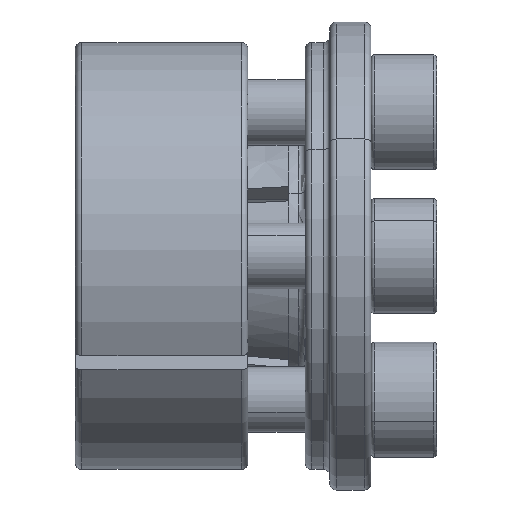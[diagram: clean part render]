
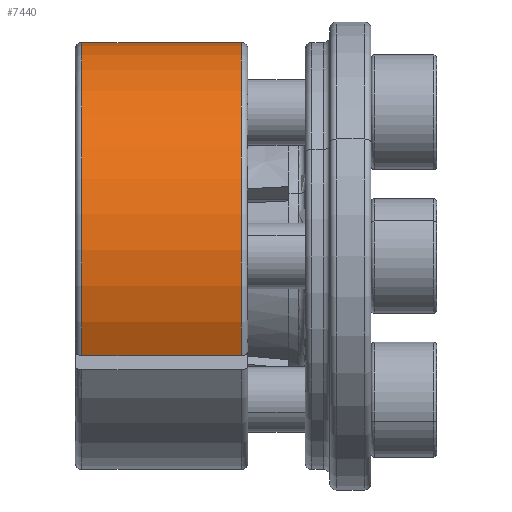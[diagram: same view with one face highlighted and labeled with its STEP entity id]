
A CAD part, front view. The second image highlights one B-rep face of the part: STEP entity #7440.
In plain terms, the highlighted cylindrical face has radius 13 mm (diameter 26 mm), a partial arc.
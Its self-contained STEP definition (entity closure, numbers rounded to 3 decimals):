
#2348 = CARTESIAN_POINT ( 'NONE',  ( -17.311, 12.203, 13. ) ) ;
#2374 = CARTESIAN_POINT ( 'NONE',  ( -7.611, 12.203, 0. ) ) ;
#2379 = AXIS2_PLACEMENT_3D ( 'NONE', #2374, #2425, #2424 ) ;
#2386 = CARTESIAN_POINT ( 'NONE',  ( -17.311, 0.703, -6.062 ) ) ;
#2401 = CARTESIAN_POINT ( 'NONE',  ( -18.961, 12.203, 0. ) ) ;
#2402 = CYLINDRICAL_SURFACE ( 'NONE', #2415, 13. ) ;
#2406 = DIRECTION ( 'NONE',  ( 0., 0., 1. ) ) ;
#2409 = DIRECTION ( 'NONE',  ( -1., 0., 0. ) ) ;
#2415 = AXIS2_PLACEMENT_3D ( 'NONE', #2401, #2409, #2406 ) ;
#2419 = DIRECTION ( 'NONE',  ( -1., 0., 0. ) ) ;
#2420 = VECTOR ( 'NONE', #2419, 1000. ) ;
#2421 = CARTESIAN_POINT ( 'NONE',  ( -18.961, 12.203, 13. ) ) ;
#2422 = LINE ( 'NONE', #2421, #2420 ) ;
#2424 = DIRECTION ( 'NONE',  ( 0., 0., 1. ) ) ;
#2425 = DIRECTION ( 'NONE',  ( -1., 0., 0. ) ) ;
#2429 = CIRCLE ( 'NONE', #2379, 13. ) ;
#2435 = DIRECTION ( 'NONE',  ( 0., 0., 1. ) ) ;
#2436 = DIRECTION ( 'NONE',  ( -1., 0., 0. ) ) ;
#2437 = CARTESIAN_POINT ( 'NONE',  ( -17.311, 12.203, 0. ) ) ;
#2440 = DIRECTION ( 'NONE',  ( 1., 0., 0. ) ) ;
#2441 = VECTOR ( 'NONE', #2440, 1000. ) ;
#2442 = CARTESIAN_POINT ( 'NONE',  ( -18.961, 0.703, -6.062 ) ) ;
#2444 = AXIS2_PLACEMENT_3D ( 'NONE', #2437, #2436, #2435 ) ;
#2446 = LINE ( 'NONE', #2442, #2441 ) ;
#2454 = FACE_OUTER_BOUND ( 'NONE', #7482, .T. ) ;
#2455 = CIRCLE ( 'NONE', #2444, 13. ) ;
#2491 = CARTESIAN_POINT ( 'NONE',  ( -7.611, 12.203, 13. ) ) ;
#2536 = CARTESIAN_POINT ( 'NONE',  ( -7.611, 0.703, -6.062 ) ) ;
#7414 = VERTEX_POINT ( 'NONE', #2348 ) ;
#7416 = VERTEX_POINT ( 'NONE', #2386 ) ;
#7426 = EDGE_CURVE ( 'NONE', #7497, #7489, #2429, .T. ) ;
#7427 = EDGE_CURVE ( 'NONE', #7489, #7414, #2422, .T. ) ;
#7440 = ADVANCED_FACE ( 'NONE', ( #2454 ), #2402, .T. ) ;
#7441 = EDGE_CURVE ( 'NONE', #7416, #7497, #2446, .T. ) ;
#7443 = ORIENTED_EDGE ( 'NONE', *, *, #7446, .F. ) ;
#7446 = EDGE_CURVE ( 'NONE', #7416, #7414, #2455, .T. ) ;
#7482 = EDGE_LOOP ( 'NONE', ( #7494, #7484, #7443, #7486 ) ) ;
#7484 = ORIENTED_EDGE ( 'NONE', *, *, #7427, .T. ) ;
#7486 = ORIENTED_EDGE ( 'NONE', *, *, #7441, .T. ) ;
#7489 = VERTEX_POINT ( 'NONE', #2491 ) ;
#7494 = ORIENTED_EDGE ( 'NONE', *, *, #7426, .T. ) ;
#7497 = VERTEX_POINT ( 'NONE', #2536 ) ;
